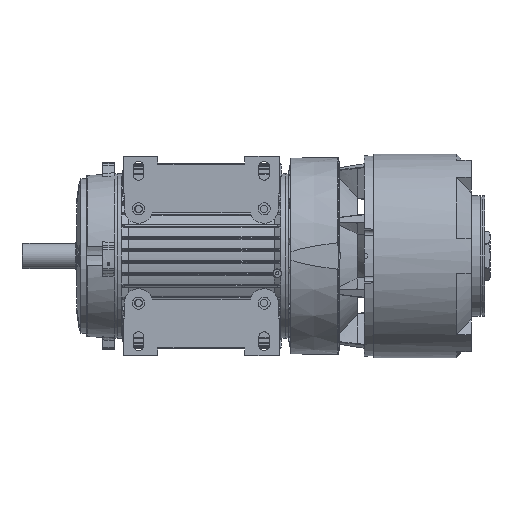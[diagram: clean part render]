
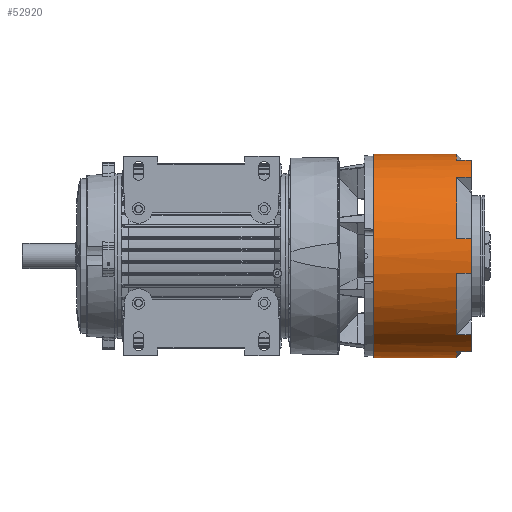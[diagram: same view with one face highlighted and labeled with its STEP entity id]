
A CAD part, front view. The second image highlights one B-rep face of the part: STEP entity #52920.
In plain terms, the highlighted cylindrical face has radius 113.75 mm (diameter 227.5 mm), a partial arc.
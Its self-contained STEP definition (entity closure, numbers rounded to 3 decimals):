
#4564 = CARTESIAN_POINT ( 'NONE',  ( -0.002, -39.621, 106.626 ) ) ;
#4755 = AXIS2_PLACEMENT_3D ( 'NONE', #100601, #39844, #160573 ) ;
#5212 = CARTESIAN_POINT ( 'NONE',  ( 92.382, 0., 0. ) ) ;
#9499 = VERTEX_POINT ( 'NONE', #167840 ) ;
#10273 = EDGE_CURVE ( 'NONE', #48371, #159091, #133193, .T. ) ;
#10348 = CARTESIAN_POINT ( 'NONE',  ( 92.382, -39.621, -106.626 ) ) ;
#10455 = DIRECTION ( 'NONE',  ( 1., 0., 0. ) ) ;
#12490 = CIRCLE ( 'NONE', #87671, 113.75 ) ;
#12817 = VECTOR ( 'NONE', #70512, 1000. ) ;
#13913 = EDGE_CURVE ( 'NONE', #59436, #44630, #139921, .T. ) ;
#14185 = AXIS2_PLACEMENT_3D ( 'NONE', #194049, #74375, #62573 ) ;
#15559 = CYLINDRICAL_SURFACE ( 'NONE', #130250, 113.75 ) ;
#21333 = DIRECTION ( 'NONE',  ( 0., 0., 1. ) ) ;
#21576 = DIRECTION ( 'NONE',  ( -1., 0., 0. ) ) ;
#22887 = DIRECTION ( 'NONE',  ( 1., 0., 0. ) ) ;
#23337 = VERTEX_POINT ( 'NONE', #38721 ) ;
#26864 = DIRECTION ( 'NONE',  ( 1., 0., 0. ) ) ;
#28317 = CARTESIAN_POINT ( 'NONE',  ( 108.5, 0., 0. ) ) ;
#29332 = EDGE_LOOP ( 'NONE', ( #156825, #59760, #152107, #92577, #118135, #179395, #67301, #149012, #124457, #123348, #157622, #67155, #111178, #159194, #87514, #145778 ) ) ;
#31129 = CARTESIAN_POINT ( 'NONE',  ( -0.002, -112.152, 19. ) ) ;
#34293 = EDGE_CURVE ( 'NONE', #100551, #35141, #137181, .T. ) ;
#35141 = VERTEX_POINT ( 'NONE', #147365 ) ;
#37549 = VERTEX_POINT ( 'NONE', #10348 ) ;
#38285 = DIRECTION ( 'NONE',  ( -1., 0., 0. ) ) ;
#38721 = CARTESIAN_POINT ( 'NONE',  ( 92.382, -72.53, 87.626 ) ) ;
#39844 = DIRECTION ( 'NONE',  ( -1., 0., 0. ) ) ;
#40856 = LINE ( 'NONE', #130158, #173110 ) ;
#41191 = CIRCLE ( 'NONE', #47355, 113.75 ) ;
#44630 = VERTEX_POINT ( 'NONE', #81627 ) ;
#44979 = DIRECTION ( 'NONE',  ( 0., 0., 1. ) ) ;
#45316 = EDGE_CURVE ( 'NONE', #9499, #109955, #12490, .T. ) ;
#47255 = CARTESIAN_POINT ( 'NONE',  ( 108.5, -39.621, -106.626 ) ) ;
#47355 = AXIS2_PLACEMENT_3D ( 'NONE', #5212, #124891, #180848 ) ;
#48371 = VERTEX_POINT ( 'NONE', #79723 ) ;
#49615 = AXIS2_PLACEMENT_3D ( 'NONE', #155986, #21576, #124576 ) ;
#49938 = CARTESIAN_POINT ( 'NONE',  ( -0.002, -72.53, -87.626 ) ) ;
#52920 = ADVANCED_FACE ( 'NONE', ( #61677 ), #15559, .T. ) ;
#54408 = CARTESIAN_POINT ( 'NONE',  ( 92.382, 0., 113.75 ) ) ;
#54585 = VECTOR ( 'NONE', #95926, 1000. ) ;
#55371 = CARTESIAN_POINT ( 'NONE',  ( 92.382, -112.152, -19. ) ) ;
#56157 = VECTOR ( 'NONE', #137949, 1000. ) ;
#58687 = CARTESIAN_POINT ( 'NONE',  ( 0., 0., -113.75 ) ) ;
#58998 = AXIS2_PLACEMENT_3D ( 'NONE', #28317, #194073, #44979 ) ;
#59436 = VERTEX_POINT ( 'NONE', #65862 ) ;
#59760 = ORIENTED_EDGE ( 'NONE', *, *, #67732, .T. ) ;
#61215 = CARTESIAN_POINT ( 'NONE',  ( 0., 0., 113.75 ) ) ;
#61677 = FACE_OUTER_BOUND ( 'NONE', #29332, .T. ) ;
#62573 = DIRECTION ( 'NONE',  ( 0., 0., 1. ) ) ;
#63186 = CIRCLE ( 'NONE', #135096, 113.75 ) ;
#65862 = CARTESIAN_POINT ( 'NONE',  ( 108.5, -112.152, -19. ) ) ;
#67155 = ORIENTED_EDGE ( 'NONE', *, *, #175718, .T. ) ;
#67301 = ORIENTED_EDGE ( 'NONE', *, *, #138327, .T. ) ;
#67670 = DIRECTION ( 'NONE',  ( 0., 0., 1. ) ) ;
#67732 = EDGE_CURVE ( 'NONE', #48371, #37549, #41191, .T. ) ;
#70512 = DIRECTION ( 'NONE',  ( -1., 0., 0. ) ) ;
#70702 = VECTOR ( 'NONE', #26864, 1000. ) ;
#72377 = EDGE_CURVE ( 'NONE', #37549, #94957, #40856, .T. ) ;
#74375 = DIRECTION ( 'NONE',  ( -1., 0., 0. ) ) ;
#75137 = VERTEX_POINT ( 'NONE', #92789 ) ;
#75384 = DIRECTION ( 'NONE',  ( 0., 0., 1. ) ) ;
#77926 = VECTOR ( 'NONE', #90949, 1000. ) ;
#78996 = EDGE_CURVE ( 'NONE', #109955, #108193, #128518, .T. ) ;
#79723 = CARTESIAN_POINT ( 'NONE',  ( 92.382, 0., -113.75 ) ) ;
#81627 = CARTESIAN_POINT ( 'NONE',  ( 108.5, -112.152, 19. ) ) ;
#83700 = VERTEX_POINT ( 'NONE', #188529 ) ;
#86671 = CARTESIAN_POINT ( 'NONE',  ( 0., 0., -113.75 ) ) ;
#87514 = ORIENTED_EDGE ( 'NONE', *, *, #78996, .T. ) ;
#87671 = AXIS2_PLACEMENT_3D ( 'NONE', #180086, #193832, #181040 ) ;
#89277 = CIRCLE ( 'NONE', #4755, 113.75 ) ;
#90949 = DIRECTION ( 'NONE',  ( 1., 0., 0. ) ) ;
#92577 = ORIENTED_EDGE ( 'NONE', *, *, #159924, .T. ) ;
#92789 = CARTESIAN_POINT ( 'NONE',  ( 92.382, -112.152, 19. ) ) ;
#94957 = VERTEX_POINT ( 'NONE', #47255 ) ;
#95494 = CIRCLE ( 'NONE', #14185, 113.75 ) ;
#95926 = DIRECTION ( 'NONE',  ( 1., 0., 0. ) ) ;
#97874 = CARTESIAN_POINT ( 'NONE',  ( 108.5, -72.53, 87.626 ) ) ;
#100551 = VERTEX_POINT ( 'NONE', #144264 ) ;
#100601 = CARTESIAN_POINT ( 'NONE',  ( 92.382, 0., 0. ) ) ;
#102199 = EDGE_CURVE ( 'NONE', #100551, #155441, #89277, .T. ) ;
#102771 = LINE ( 'NONE', #31129, #77926 ) ;
#108193 = VERTEX_POINT ( 'NONE', #61215 ) ;
#109955 = VERTEX_POINT ( 'NONE', #54408 ) ;
#110173 = EDGE_CURVE ( 'NONE', #23337, #114899, #176022, .T. ) ;
#111178 = ORIENTED_EDGE ( 'NONE', *, *, #150603, .F. ) ;
#112715 = DIRECTION ( 'NONE',  ( -1., 0., 0. ) ) ;
#114899 = VERTEX_POINT ( 'NONE', #97874 ) ;
#118135 = ORIENTED_EDGE ( 'NONE', *, *, #34293, .F. ) ;
#120512 = DIRECTION ( 'NONE',  ( -1., 0., 0. ) ) ;
#123348 = ORIENTED_EDGE ( 'NONE', *, *, #147473, .T. ) ;
#124457 = ORIENTED_EDGE ( 'NONE', *, *, #179114, .F. ) ;
#124576 = DIRECTION ( 'NONE',  ( 0., 0., 1. ) ) ;
#124891 = DIRECTION ( 'NONE',  ( -1., 0., 0. ) ) ;
#128518 = LINE ( 'NONE', #141318, #168191 ) ;
#130158 = CARTESIAN_POINT ( 'NONE',  ( -0.002, -39.621, -106.626 ) ) ;
#130250 = AXIS2_PLACEMENT_3D ( 'NONE', #133295, #120512, #75384 ) ;
#130449 = VECTOR ( 'NONE', #22887, 1000. ) ;
#133193 = LINE ( 'NONE', #58687, #12817 ) ;
#133295 = CARTESIAN_POINT ( 'NONE',  ( 0., 0., 0. ) ) ;
#134126 = CIRCLE ( 'NONE', #49615, 113.75 ) ;
#135096 = AXIS2_PLACEMENT_3D ( 'NONE', #173367, #155746, #21333 ) ;
#137181 = LINE ( 'NONE', #49938, #54585 ) ;
#137949 = DIRECTION ( 'NONE',  ( 1., 0., 0. ) ) ;
#138327 = EDGE_CURVE ( 'NONE', #155441, #59436, #187690, .T. ) ;
#139921 = CIRCLE ( 'NONE', #177639, 113.75 ) ;
#141318 = CARTESIAN_POINT ( 'NONE',  ( 0., 0., 113.75 ) ) ;
#143540 = CIRCLE ( 'NONE', #58998, 113.75 ) ;
#144264 = CARTESIAN_POINT ( 'NONE',  ( 92.382, -72.53, -87.626 ) ) ;
#145778 = ORIENTED_EDGE ( 'NONE', *, *, #164894, .F. ) ;
#146384 = CARTESIAN_POINT ( 'NONE',  ( -0.002, -112.152, -19. ) ) ;
#147365 = CARTESIAN_POINT ( 'NONE',  ( 108.5, -72.53, -87.626 ) ) ;
#147473 = EDGE_CURVE ( 'NONE', #75137, #23337, #63186, .T. ) ;
#149012 = ORIENTED_EDGE ( 'NONE', *, *, #13913, .T. ) ;
#150603 = EDGE_CURVE ( 'NONE', #9499, #83700, #169420, .T. ) ;
#152107 = ORIENTED_EDGE ( 'NONE', *, *, #72377, .T. ) ;
#155441 = VERTEX_POINT ( 'NONE', #55371 ) ;
#155746 = DIRECTION ( 'NONE',  ( -1., 0., 0. ) ) ;
#155986 = CARTESIAN_POINT ( 'NONE',  ( 0., 0., 0. ) ) ;
#156825 = ORIENTED_EDGE ( 'NONE', *, *, #10273, .F. ) ;
#157622 = ORIENTED_EDGE ( 'NONE', *, *, #110173, .T. ) ;
#159091 = VERTEX_POINT ( 'NONE', #86671 ) ;
#159194 = ORIENTED_EDGE ( 'NONE', *, *, #45316, .T. ) ;
#159924 = EDGE_CURVE ( 'NONE', #94957, #35141, #95494, .T. ) ;
#160573 = DIRECTION ( 'NONE',  ( 0., 0., 1. ) ) ;
#161314 = CARTESIAN_POINT ( 'NONE',  ( -0.002, -72.53, 87.626 ) ) ;
#164894 = EDGE_CURVE ( 'NONE', #159091, #108193, #134126, .T. ) ;
#167840 = CARTESIAN_POINT ( 'NONE',  ( 92.382, -39.621, 106.626 ) ) ;
#168191 = VECTOR ( 'NONE', #38285, 1000. ) ;
#169420 = LINE ( 'NONE', #4564, #56157 ) ;
#173110 = VECTOR ( 'NONE', #10455, 1000. ) ;
#173367 = CARTESIAN_POINT ( 'NONE',  ( 92.382, 0., 0. ) ) ;
#174533 = CARTESIAN_POINT ( 'NONE',  ( 108.5, 0., 0. ) ) ;
#175718 = EDGE_CURVE ( 'NONE', #114899, #83700, #143540, .T. ) ;
#176022 = LINE ( 'NONE', #161314, #70702 ) ;
#177639 = AXIS2_PLACEMENT_3D ( 'NONE', #174533, #112715, #67670 ) ;
#179114 = EDGE_CURVE ( 'NONE', #75137, #44630, #102771, .T. ) ;
#179395 = ORIENTED_EDGE ( 'NONE', *, *, #102199, .T. ) ;
#180086 = CARTESIAN_POINT ( 'NONE',  ( 92.382, 0., 0. ) ) ;
#180848 = DIRECTION ( 'NONE',  ( 0., 0., 1. ) ) ;
#181040 = DIRECTION ( 'NONE',  ( 0., 0., 1. ) ) ;
#187690 = LINE ( 'NONE', #146384, #130449 ) ;
#188529 = CARTESIAN_POINT ( 'NONE',  ( 108.5, -39.621, 106.626 ) ) ;
#193832 = DIRECTION ( 'NONE',  ( -1., 0., 0. ) ) ;
#194049 = CARTESIAN_POINT ( 'NONE',  ( 108.5, 0., 0. ) ) ;
#194073 = DIRECTION ( 'NONE',  ( -1., 0., 0. ) ) ;
